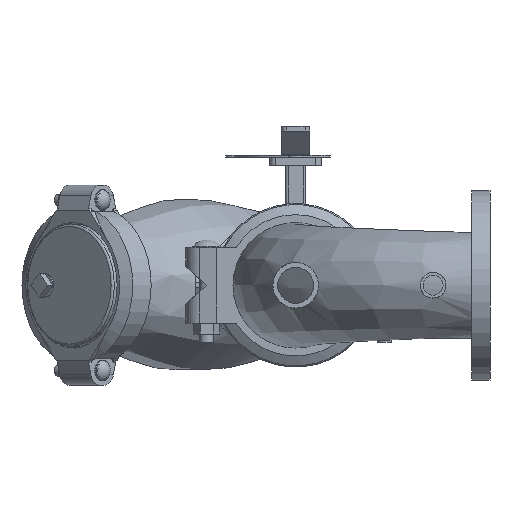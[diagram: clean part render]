
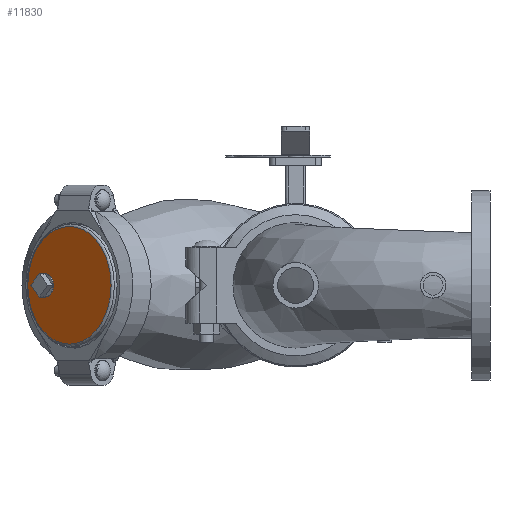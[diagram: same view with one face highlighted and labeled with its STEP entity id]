
A CAD part, front view. The second image highlights one B-rep face of the part: STEP entity #11830.
In plain terms, the highlighted planar face has unit normal (-0.707, -0.707, 0) as drawn and (1, 0, 0) by its records, which use the part's own axes.
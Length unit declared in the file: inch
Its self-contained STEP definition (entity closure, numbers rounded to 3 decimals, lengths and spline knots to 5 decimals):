
#2314=FACE_BOUND('',#3388,.T.);
#2686=FACE_OUTER_BOUND('',#3387,.T.);
#3387=EDGE_LOOP('',(#8649,#8650));
#3388=EDGE_LOOP('',(#8651));
#4090=CIRCLE('',#13026,0.625);
#4098=CIRCLE('',#13037,3.1075);
#4099=CIRCLE('',#13038,3.1075);
#4947=VERTEX_POINT('',#22620);
#4955=VERTEX_POINT('',#22641);
#4956=VERTEX_POINT('',#22642);
#6286=EDGE_CURVE('',#4947,#4947,#4090,.T.);
#6295=EDGE_CURVE('',#4955,#4956,#4098,.T.);
#6296=EDGE_CURVE('',#4956,#4955,#4099,.T.);
#8649=ORIENTED_EDGE('',*,*,#6295,.T.);
#8650=ORIENTED_EDGE('',*,*,#6296,.T.);
#8651=ORIENTED_EDGE('',*,*,#6286,.T.);
#10678=PLANE('',#13040);
#11830=ADVANCED_FACE('',(#2686,#2314),#10678,.T.);
#13026=AXIS2_PLACEMENT_3D('',#22622,#15253,#15254);
#13037=AXIS2_PLACEMENT_3D('',#22643,#15276,#15277);
#13038=AXIS2_PLACEMENT_3D('',#22644,#15278,#15279);
#13040=AXIS2_PLACEMENT_3D('',#22646,#15282,#15283);
#15253=DIRECTION('center_axis',(-1.,0.,0.));
#15254=DIRECTION('ref_axis',(0.,0.,1.));
#15276=DIRECTION('center_axis',(1.,0.,0.));
#15277=DIRECTION('ref_axis',(0.,0.,-1.));
#15278=DIRECTION('center_axis',(1.,0.,0.));
#15279=DIRECTION('ref_axis',(0.,0.,-1.));
#15282=DIRECTION('center_axis',(1.,0.,0.));
#15283=DIRECTION('ref_axis',(0.,0.,-1.));
#22620=CARTESIAN_POINT('',(1.2,1.8,-0.625));
#22622=CARTESIAN_POINT('Origin',(1.2,1.8,0.));
#22641=CARTESIAN_POINT('',(1.2,3.1075,0.));
#22642=CARTESIAN_POINT('',(1.2,0.,3.1075));
#22643=CARTESIAN_POINT('Origin',(1.2,0.,0.));
#22644=CARTESIAN_POINT('Origin',(1.2,0.,0.));
#22646=CARTESIAN_POINT('Origin',(1.2,0.,0.));
